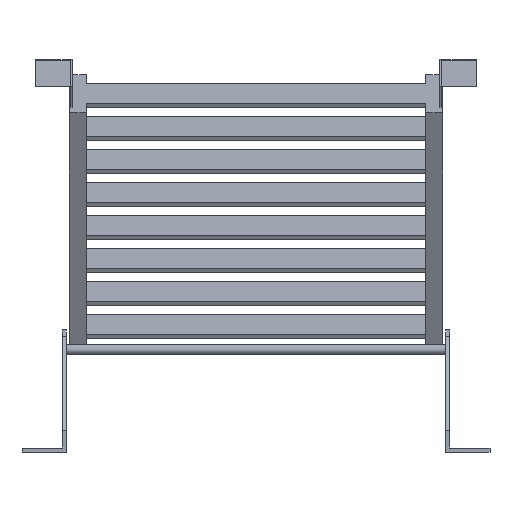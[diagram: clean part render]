
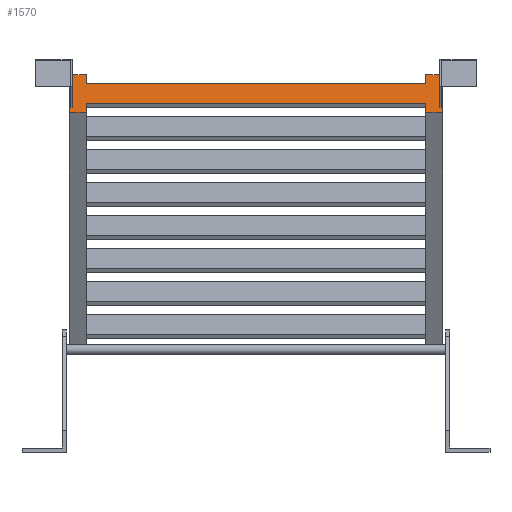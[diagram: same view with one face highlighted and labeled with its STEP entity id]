
A CAD part, front view. The second image highlights one B-rep face of the part: STEP entity #1570.
In plain terms, the highlighted planar face has unit normal (0, -0.985, 0.174).
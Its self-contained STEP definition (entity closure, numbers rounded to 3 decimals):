
#117=DIRECTION('',(1.,0.,0.));
#118=VECTOR('',#117,500.);
#119=CARTESIAN_POINT('',(-250.,-1828.54,543.029));
#120=LINE('',#119,#118);
#489=DIRECTION('',(1.,0.,0.));
#490=VECTOR('',#489,500.);
#491=CARTESIAN_POINT('',(-250.,-1833.75,513.485));
#492=LINE('',#491,#490);
#497=DIRECTION('',(0.,0.174,0.985));
#498=VECTOR('',#497,13.5);
#499=CARTESIAN_POINT('',(-250.,-1828.54,543.029));
#500=LINE('',#499,#498);
#501=DIRECTION('',(0.,-0.174,-0.985));
#502=VECTOR('',#501,13.5);
#503=CARTESIAN_POINT('',(250.,-1826.196,556.324));
#504=LINE('',#503,#502);
#505=DIRECTION('',(-1.,0.,0.));
#506=VECTOR('',#505,25.);
#507=CARTESIAN_POINT('',(275.,-1826.196,556.324));
#508=LINE('',#507,#506);
#509=DIRECTION('',(0.,0.174,0.985));
#510=VECTOR('',#509,57.);
#511=CARTESIAN_POINT('',(275.,-1836.094,500.19));
#512=LINE('',#511,#510);
#513=DIRECTION('',(1.,0.,0.));
#514=VECTOR('',#513,25.);
#515=CARTESIAN_POINT('',(250.,-1836.094,500.19));
#516=LINE('',#515,#514);
#517=DIRECTION('',(0.,-0.174,-0.985));
#518=VECTOR('',#517,13.5);
#519=CARTESIAN_POINT('',(250.,-1833.75,513.485));
#520=LINE('',#519,#518);
#521=DIRECTION('',(0.,0.174,0.985));
#522=VECTOR('',#521,13.5);
#523=CARTESIAN_POINT('',(-250.,-1836.094,500.19));
#524=LINE('',#523,#522);
#525=DIRECTION('',(1.,0.,0.));
#526=VECTOR('',#525,25.);
#527=CARTESIAN_POINT('',(-275.,-1836.094,500.19));
#528=LINE('',#527,#526);
#529=DIRECTION('',(0.,-0.174,-0.985));
#530=VECTOR('',#529,57.);
#531=CARTESIAN_POINT('',(-275.,-1826.196,556.324));
#532=LINE('',#531,#530);
#533=DIRECTION('',(-1.,0.,0.));
#534=VECTOR('',#533,25.);
#535=CARTESIAN_POINT('',(-250.,-1826.196,556.324));
#536=LINE('',#535,#534);
#537=DIRECTION('',(1.,0.,0.));
#538=VECTOR('',#537,2.);
#539=CARTESIAN_POINT('',(-273.,-1834.618,508.561));
#540=LINE('',#539,#538);
#541=DIRECTION('',(0.,0.174,0.985));
#542=VECTOR('',#541,40.);
#543=CARTESIAN_POINT('',(-271.,-1834.618,508.561));
#544=LINE('',#543,#542);
#545=DIRECTION('',(1.,0.,0.));
#546=VECTOR('',#545,2.);
#547=CARTESIAN_POINT('',(-273.,-1827.672,547.953));
#548=LINE('',#547,#546);
#549=DIRECTION('',(0.,0.174,0.985));
#550=VECTOR('',#549,40.);
#551=CARTESIAN_POINT('',(-273.,-1834.618,508.561));
#552=LINE('',#551,#550);
#553=DIRECTION('',(1.,0.,0.));
#554=VECTOR('',#553,2.);
#555=CARTESIAN_POINT('',(271.,-1834.618,508.561));
#556=LINE('',#555,#554);
#557=DIRECTION('',(0.,0.174,0.985));
#558=VECTOR('',#557,40.);
#559=CARTESIAN_POINT('',(273.,-1834.618,508.561));
#560=LINE('',#559,#558);
#561=DIRECTION('',(1.,0.,0.));
#562=VECTOR('',#561,2.);
#563=CARTESIAN_POINT('',(271.,-1827.672,547.953));
#564=LINE('',#563,#562);
#565=DIRECTION('',(0.,0.174,0.985));
#566=VECTOR('',#565,40.);
#567=CARTESIAN_POINT('',(271.,-1834.618,508.561));
#568=LINE('',#567,#566);
#753=CARTESIAN_POINT('',(-250.,-1826.196,556.324));
#754=CARTESIAN_POINT('',(-275.,-1826.196,556.324));
#755=VERTEX_POINT('',#753);
#756=VERTEX_POINT('',#754);
#757=CARTESIAN_POINT('',(-275.,-1836.094,500.19));
#758=CARTESIAN_POINT('',(-250.,-1836.094,500.19));
#759=VERTEX_POINT('',#757);
#760=VERTEX_POINT('',#758);
#761=CARTESIAN_POINT('',(275.,-1836.094,500.19));
#762=CARTESIAN_POINT('',(275.,-1826.196,556.324));
#763=VERTEX_POINT('',#761);
#764=VERTEX_POINT('',#762);
#765=CARTESIAN_POINT('',(250.,-1836.094,500.19));
#766=VERTEX_POINT('',#765);
#767=CARTESIAN_POINT('',(250.,-1826.196,556.324));
#768=VERTEX_POINT('',#767);
#881=CARTESIAN_POINT('',(-250.,-1833.75,513.485));
#883=VERTEX_POINT('',#881);
#885=CARTESIAN_POINT('',(-250.,-1828.54,543.029));
#887=VERTEX_POINT('',#885);
#889=CARTESIAN_POINT('',(250.,-1833.75,513.485));
#891=VERTEX_POINT('',#889);
#893=CARTESIAN_POINT('',(250.,-1828.54,543.029));
#895=VERTEX_POINT('',#893);
#913=CARTESIAN_POINT('',(-273.,-1834.618,508.561));
#914=CARTESIAN_POINT('',(-271.,-1834.618,508.561));
#915=VERTEX_POINT('',#913);
#916=VERTEX_POINT('',#914);
#917=CARTESIAN_POINT('',(-273.,-1827.672,547.953));
#918=CARTESIAN_POINT('',(-271.,-1827.672,547.953));
#919=VERTEX_POINT('',#917);
#920=VERTEX_POINT('',#918);
#937=CARTESIAN_POINT('',(271.,-1834.618,508.561));
#938=CARTESIAN_POINT('',(273.,-1834.618,508.561));
#939=VERTEX_POINT('',#937);
#940=VERTEX_POINT('',#938);
#941=CARTESIAN_POINT('',(271.,-1827.672,547.953));
#942=CARTESIAN_POINT('',(273.,-1827.672,547.953));
#943=VERTEX_POINT('',#941);
#944=VERTEX_POINT('',#942);
#1525=CARTESIAN_POINT('',(0.,-1866.266,329.073));
#1526=DIRECTION('',(0.,0.985,-0.174));
#1527=DIRECTION('',(1.,0.,0.));
#1528=AXIS2_PLACEMENT_3D('',#1525,#1526,#1527);
#1529=PLANE('',#1528);
#1530=ORIENTED_EDGE('',*,*,#971,.F.);
#1531=ORIENTED_EDGE('',*,*,#956,.T.);
#1532=ORIENTED_EDGE('',*,*,#1125,.F.);
#1534=ORIENTED_EDGE('',*,*,#1533,.F.);
#1536=ORIENTED_EDGE('',*,*,#1535,.F.);
#1538=ORIENTED_EDGE('',*,*,#1537,.F.);
#1539=ORIENTED_EDGE('',*,*,#1117,.F.);
#1540=ORIENTED_EDGE('',*,*,#1517,.F.);
#1541=ORIENTED_EDGE('',*,*,#979,.F.);
#1543=ORIENTED_EDGE('',*,*,#1542,.F.);
#1545=ORIENTED_EDGE('',*,*,#1544,.F.);
#1547=ORIENTED_EDGE('',*,*,#1546,.F.);
#1548=EDGE_LOOP('',(#1530,#1531,#1532,#1534,#1536,#1538,#1539,#1540,#1541,#1543,
#1545,#1547));
#1549=FACE_OUTER_BOUND('',#1548,.F.);
#1551=ORIENTED_EDGE('',*,*,#1550,.T.);
#1553=ORIENTED_EDGE('',*,*,#1552,.T.);
#1555=ORIENTED_EDGE('',*,*,#1554,.F.);
#1557=ORIENTED_EDGE('',*,*,#1556,.F.);
#1558=EDGE_LOOP('',(#1551,#1553,#1555,#1557));
#1559=FACE_BOUND('',#1558,.F.);
#1561=ORIENTED_EDGE('',*,*,#1560,.T.);
#1563=ORIENTED_EDGE('',*,*,#1562,.T.);
#1565=ORIENTED_EDGE('',*,*,#1564,.F.);
#1567=ORIENTED_EDGE('',*,*,#1566,.F.);
#1568=EDGE_LOOP('',(#1561,#1563,#1565,#1567));
#1569=FACE_BOUND('',#1568,.F.);
#956=EDGE_CURVE('',#887,#895,#120,.T.);
#971=EDGE_CURVE('',#887,#755,#500,.T.);
#979=EDGE_CURVE('',#760,#883,#524,.T.);
#1117=EDGE_CURVE('',#891,#766,#520,.T.);
#1125=EDGE_CURVE('',#768,#895,#504,.T.);
#1517=EDGE_CURVE('',#883,#891,#492,.T.);
#1533=EDGE_CURVE('',#764,#768,#508,.T.);
#1535=EDGE_CURVE('',#763,#764,#512,.T.);
#1537=EDGE_CURVE('',#766,#763,#516,.T.);
#1542=EDGE_CURVE('',#759,#760,#528,.T.);
#1544=EDGE_CURVE('',#756,#759,#532,.T.);
#1546=EDGE_CURVE('',#755,#756,#536,.T.);
#1550=EDGE_CURVE('',#915,#916,#540,.T.);
#1552=EDGE_CURVE('',#916,#920,#544,.T.);
#1554=EDGE_CURVE('',#919,#920,#548,.T.);
#1556=EDGE_CURVE('',#915,#919,#552,.T.);
#1560=EDGE_CURVE('',#939,#940,#556,.T.);
#1562=EDGE_CURVE('',#940,#944,#560,.T.);
#1564=EDGE_CURVE('',#943,#944,#564,.T.);
#1566=EDGE_CURVE('',#939,#943,#568,.T.);
#1570=ADVANCED_FACE('',(#1549,#1559,#1569),#1529,.F.);
